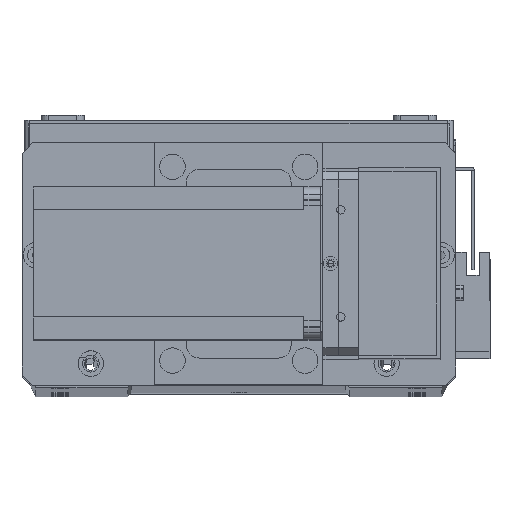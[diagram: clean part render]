
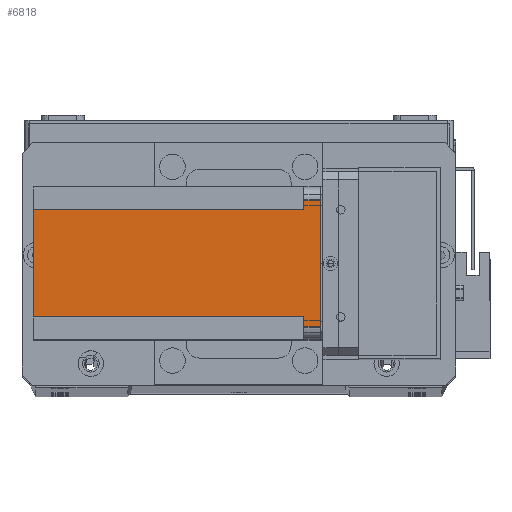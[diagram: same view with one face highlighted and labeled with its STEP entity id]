
A CAD part, top view. The second image highlights one B-rep face of the part: STEP entity #6818.
In plain terms, the highlighted planar face has unit normal (0, 0, 1) as drawn and (-1, 0, 0) by its records, which use the part's own axes.
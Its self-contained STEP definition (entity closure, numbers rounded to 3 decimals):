
#491 = CARTESIAN_POINT ( 'NONE',  ( 0., 0., -112.5 ) ) ;
#1500 = LINE ( 'NONE', #21737, #9172 ) ;
#2037 = VERTEX_POINT ( 'NONE', #2386 ) ;
#2386 = CARTESIAN_POINT ( 'NONE',  ( 0., 9., -112.5 ) ) ;
#2844 = DIRECTION ( 'NONE',  ( 0., -1., 0. ) ) ;
#3470 = VECTOR ( 'NONE', #18171, 1000. ) ;
#4112 = DIRECTION ( 'NONE',  ( 0., 1., 0. ) ) ;
#4421 = CARTESIAN_POINT ( 'NONE',  ( 0., 60., -6.5 ) ) ;
#4562 = LINE ( 'NONE', #27161, #10578 ) ;
#5513 = CARTESIAN_POINT ( 'NONE',  ( 0., 0., 0. ) ) ;
#5519 = DIRECTION ( 'NONE',  ( 0., -1., 0. ) ) ;
#6818 = ADVANCED_FACE ( 'NONE', ( #13059 ), #9470, .T. ) ;
#7248 = VECTOR ( 'NONE', #2844, 1000. ) ;
#8264 = VECTOR ( 'NONE', #13163, 1000. ) ;
#8526 = VERTEX_POINT ( 'NONE', #11612 ) ;
#9172 = VECTOR ( 'NONE', #22018, 1000. ) ;
#9346 = DIRECTION ( 'NONE',  ( 0., -1., 0. ) ) ;
#9365 = DIRECTION ( 'NONE',  ( -1., 0., 0. ) ) ;
#9470 = PLANE ( 'NONE',  #29787 ) ;
#9917 = EDGE_CURVE ( 'NONE', #24363, #2037, #27317, .T. ) ;
#10057 = VERTEX_POINT ( 'NONE', #27221 ) ;
#10059 = ORIENTED_EDGE ( 'NONE', *, *, #11640, .F. ) ;
#10298 = LINE ( 'NONE', #18565, #3470 ) ;
#10308 = ORIENTED_EDGE ( 'NONE', *, *, #11682, .T. ) ;
#10563 = CARTESIAN_POINT ( 'NONE',  ( 0., 0., -112.5 ) ) ;
#10578 = VECTOR ( 'NONE', #27034, 1000. ) ;
#10664 = EDGE_CURVE ( 'NONE', #18066, #8526, #26885, .T. ) ;
#11015 = ORIENTED_EDGE ( 'NONE', *, *, #10664, .F. ) ;
#11219 = CARTESIAN_POINT ( 'NONE',  ( 0., 51., -112.5 ) ) ;
#11269 = ORIENTED_EDGE ( 'NONE', *, *, #11831, .T. ) ;
#11545 = ORIENTED_EDGE ( 'NONE', *, *, #12454, .F. ) ;
#11612 = CARTESIAN_POINT ( 'NONE',  ( 0., 5., 0. ) ) ;
#11640 = EDGE_CURVE ( 'NONE', #10057, #18852, #29153, .T. ) ;
#11682 = EDGE_CURVE ( 'NONE', #10057, #8526, #1500, .T. ) ;
#11830 = CARTESIAN_POINT ( 'NONE',  ( 0., 55., -6.5 ) ) ;
#11831 = EDGE_CURVE ( 'NONE', #18066, #14889, #10298, .T. ) ;
#11920 = ORIENTED_EDGE ( 'NONE', *, *, #12991, .F. ) ;
#12136 = ORIENTED_EDGE ( 'NONE', *, *, #9917, .T. ) ;
#12454 = EDGE_CURVE ( 'NONE', #17289, #14889, #18029, .T. ) ;
#12991 = EDGE_CURVE ( 'NONE', #24363, #17289, #21604, .T. ) ;
#13059 = FACE_OUTER_BOUND ( 'NONE', #23518, .T. ) ;
#13163 = DIRECTION ( 'NONE',  ( 0., 0., 1. ) ) ;
#13180 = ORIENTED_EDGE ( 'NONE', *, *, #13350, .F. ) ;
#13350 = EDGE_CURVE ( 'NONE', #18852, #2037, #4562, .T. ) ;
#14889 = VERTEX_POINT ( 'NONE', #11830 ) ;
#16384 = CARTESIAN_POINT ( 'NONE',  ( 0., 9., -6.5 ) ) ;
#17289 = VERTEX_POINT ( 'NONE', #29663 ) ;
#18029 = LINE ( 'NONE', #4421, #30640 ) ;
#18066 = VERTEX_POINT ( 'NONE', #30311 ) ;
#18171 = DIRECTION ( 'NONE',  ( 0., 0., -1. ) ) ;
#18565 = CARTESIAN_POINT ( 'NONE',  ( 0., 55., -112.5 ) ) ;
#18852 = VERTEX_POINT ( 'NONE', #16384 ) ;
#21604 = LINE ( 'NONE', #11219, #8264 ) ;
#21704 = VECTOR ( 'NONE', #22287, 1000. ) ;
#21737 = CARTESIAN_POINT ( 'NONE',  ( 0., 5., -112.5 ) ) ;
#22018 = DIRECTION ( 'NONE',  ( 0., 0., 1. ) ) ;
#22287 = DIRECTION ( 'NONE',  ( 0., 1., 0. ) ) ;
#22980 = CARTESIAN_POINT ( 'NONE',  ( 0., 0., -6.5 ) ) ;
#23273 = CARTESIAN_POINT ( 'NONE',  ( 0., 51., -112.5 ) ) ;
#23518 = EDGE_LOOP ( 'NONE', ( #10059, #10308, #11015, #11269, #11545, #11920, #12136, #13180 ) ) ;
#24363 = VERTEX_POINT ( 'NONE', #23273 ) ;
#26086 = VECTOR ( 'NONE', #5519, 1000. ) ;
#26885 = LINE ( 'NONE', #5513, #26086 ) ;
#27034 = DIRECTION ( 'NONE',  ( 0., 0., -1. ) ) ;
#27161 = CARTESIAN_POINT ( 'NONE',  ( 0., 9., -112.5 ) ) ;
#27221 = CARTESIAN_POINT ( 'NONE',  ( 0., 5., -6.5 ) ) ;
#27317 = LINE ( 'NONE', #491, #7248 ) ;
#29153 = LINE ( 'NONE', #22980, #21704 ) ;
#29663 = CARTESIAN_POINT ( 'NONE',  ( 0., 51., -6.5 ) ) ;
#29787 = AXIS2_PLACEMENT_3D ( 'NONE', #10563, #9365, #9346 ) ;
#30311 = CARTESIAN_POINT ( 'NONE',  ( 0., 55., 0. ) ) ;
#30640 = VECTOR ( 'NONE', #4112, 1000. ) ;
